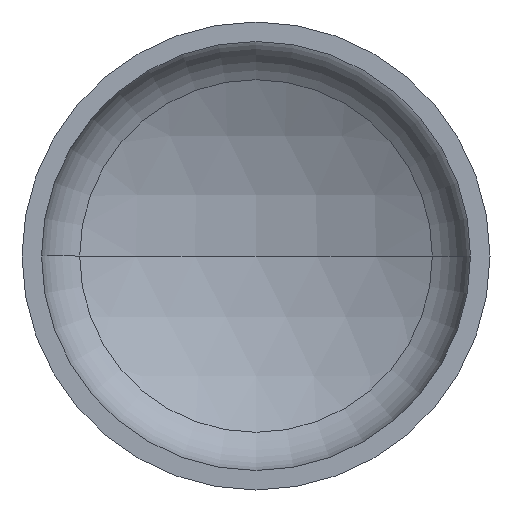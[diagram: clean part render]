
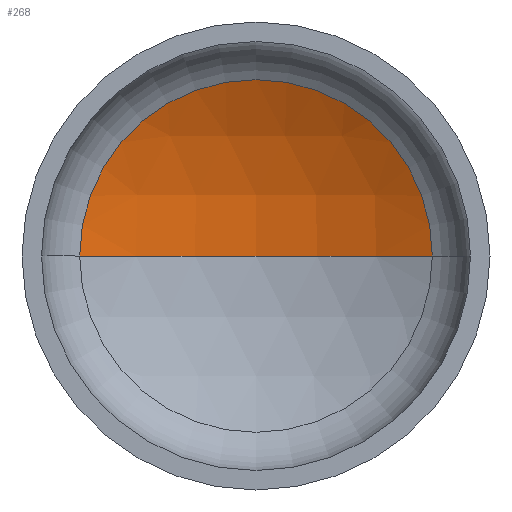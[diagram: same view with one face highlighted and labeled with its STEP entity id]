
A CAD part, front view. The second image highlights one B-rep face of the part: STEP entity #268.
In plain terms, the highlighted spherical face has radius 960 mm.
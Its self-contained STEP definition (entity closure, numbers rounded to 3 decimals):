
#2 = AXIS2_PLACEMENT_3D ( 'NONE', #179, #354, #207 ) ;
#7 = AXIS2_PLACEMENT_3D ( 'NONE', #229, #215, #211 ) ;
#10 = VERTEX_POINT ( 'NONE', #274 ) ;
#31 = AXIS2_PLACEMENT_3D ( 'NONE', #245, #251, #256 ) ;
#64 = CIRCLE ( 'NONE', #7, 960. ) ;
#91 = CARTESIAN_POINT ( 'NONE',  ( 0., 313.198, 0. ) ) ;
#92 = ORIENTED_EDGE ( 'NONE', *, *, #375, .T. ) ;
#118 = ORIENTED_EDGE ( 'NONE', *, *, #382, .T. ) ;
#126 = DIRECTION ( 'NONE',  ( 1., 0., 0. ) ) ;
#127 = ORIENTED_EDGE ( 'NONE', *, *, #357, .F. ) ;
#130 = VERTEX_POINT ( 'NONE', #232 ) ;
#131 = DIRECTION ( 'NONE',  ( 0., -1., 0. ) ) ;
#137 = SPHERICAL_SURFACE ( 'NONE', #31, 960. ) ;
#153 = VERTEX_POINT ( 'NONE', #404 ) ;
#178 = CIRCLE ( 'NONE', #2, 960. ) ;
#179 = CARTESIAN_POINT ( 'NONE',  ( 0., -533.667, 0. ) ) ;
#182 = EDGE_LOOP ( 'NONE', ( #127, #92, #118 ) ) ;
#207 = DIRECTION ( 'NONE',  ( -1., 0., 0. ) ) ;
#211 = DIRECTION ( 'NONE',  ( 1., 0., 0. ) ) ;
#215 = DIRECTION ( 'NONE',  ( 0., 0., 1. ) ) ;
#229 = CARTESIAN_POINT ( 'NONE',  ( 0., -533.667, 0. ) ) ;
#232 = CARTESIAN_POINT ( 'NONE',  ( 0., 426.333, 0. ) ) ;
#245 = CARTESIAN_POINT ( 'NONE',  ( 0., -533.667, 0. ) ) ;
#251 = DIRECTION ( 'NONE',  ( 0., 0., -1. ) ) ;
#256 = DIRECTION ( 'NONE',  ( -1., 0., 0. ) ) ;
#268 = ADVANCED_FACE ( 'NONE', ( #281 ), #137, .F. ) ;
#274 = CARTESIAN_POINT ( 'NONE',  ( -452.129, 313.198, 0. ) ) ;
#281 = FACE_OUTER_BOUND ( 'NONE', #182, .T. ) ;
#354 = DIRECTION ( 'NONE',  ( 0., 0., -1. ) ) ;
#357 = EDGE_CURVE ( 'NONE', #130, #10, #64, .T. ) ;
#359 = AXIS2_PLACEMENT_3D ( 'NONE', #91, #131, #126 ) ;
#374 = CIRCLE ( 'NONE', #359, 452.129 ) ;
#375 = EDGE_CURVE ( 'NONE', #130, #153, #178, .T. ) ;
#382 = EDGE_CURVE ( 'NONE', #153, #10, #374, .T. ) ;
#404 = CARTESIAN_POINT ( 'NONE',  ( 452.129, 313.198, 0. ) ) ;
